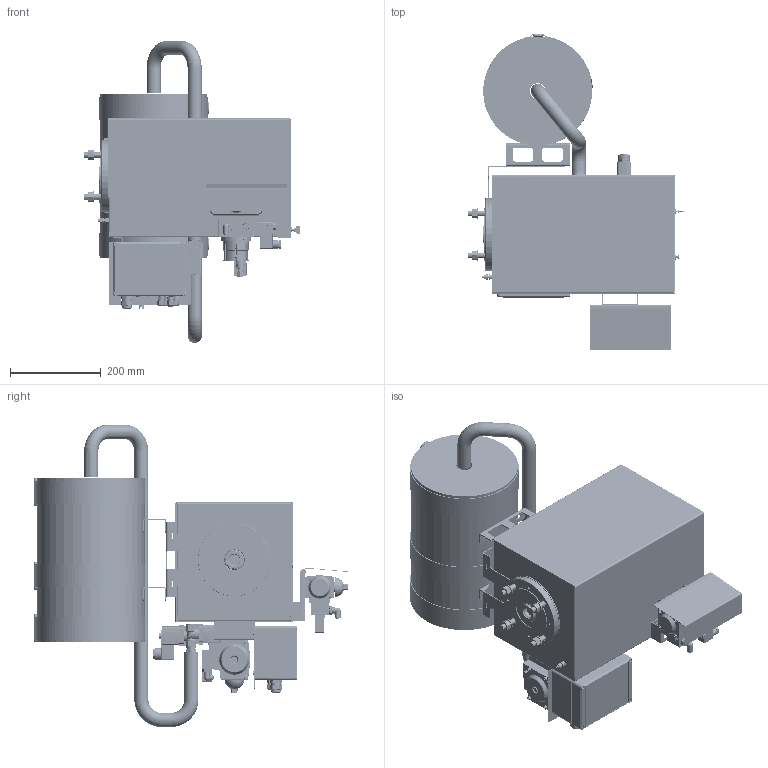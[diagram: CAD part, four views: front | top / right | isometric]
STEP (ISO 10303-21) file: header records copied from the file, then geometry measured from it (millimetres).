
FILE_DESCRIPTION(/* description */ ('Unknown'),/* implementation_level */ '2;1');
FILE_NAME(/* name */ 'ZUS003_JES-360.Z1F2X1V6K4J3U5R4M1A2-CK#00_v1',/* time_stamp */ '2021-06-23T10:56:23+02:00',/* author */ ('Unknown'),/* organization */ ('Unknown'),/* preprocessor_version */ 'ST-DEVELOPER v16.7',/* originating_system */ 'Solid Edge',/* authorisation */ 'Unknown');
FILE_SCHEMA (('AUTOMOTIVE_DESIGN {1 0 10303 214 3 1 1}'));
Products named in the file (111): ZUS003_JES-360; A35.00980_Montageschelle_d35-d50#00_oa_0; JES_FFM242_Montageschelle_d35-d50#00_oa_1; jes_246_ms-fixierring#00; jes_245_ms-halterring#00; Y1001101_Masterwatt_SLG004_Spannband-D53_oa_2; jes_349_befestigungsbügel_f_pag-e43-s6_kugelhahn_abgang#01; PAG-43; pag-43_2; PAG-43_1; PAG-43_0; K3522008_DKLok_039_DMC12M-6N-S; JES360_FFM009_Temp-Regler-K3590230_m_SPS_K3506707#00_oa_3; K3590230_Rinck-FFM007_Temperaturregler_i_Kunstoffgehäuse#02_oa_4; K3517002_Rinck-FFM006_Euromass-II_160x120x92_FT_oa_5; K1007501_Kabelbinder_Typ_100x2,5_PA66natur_ngp; K3517001_Rinck-FFM010_Euromass-II_160x120x92_FT_Original_oa_6; Rinck-58_238&246 UT_1003256_3DSYM_Original_oa_7; Rinck-57_238 OT-F_1003255_3DSYM_Original; Rinck_FFM005_Kableverschraubung_M20x1,5_oa_8; Rinck-49_Kableverschraubung_M20x1,5_Kontermutter; Rinck-50_Kableverschraubung_M20x1,5_Körper; Rinck-51_Kableverschraubung_M20x1,5_Dichtung; Rinck-52_Kableverschraubung_M20x1,5_Überwurf; K1007520A_KVS_M12x1,5_PA6_7035_d2,5-6,5_-30蚓-+100蚓_GL12_oa_9; K1007520A_Kableverschraubung_M12x1,5_Körper_PA6; K1007520A_Kableverschraubung_M12x1,5_Dichtung_TPEorCR; K1007520A_Kableverschraubung_M12x1,5_Überwurfmuttter_PA6; K1007520A_KVS_M12x1,5_PA6_7035_d2,5-6,5_-30蚓-+100蚓_GL12_oa_10; K1007520A_KVS_M12x1,5_PA6_7035_d2,5-6,5_-30蚓-+100蚓_GL12_oa_11; K1007520A_KVS_M12x1,5_PA6_7035_d2,5-6,5_-30蚓-+100蚓_GL12_oa_12; K3546411_Blindstopfen_M20x1,5_RAL7035_88705144; K1041006_AGS_SLG009_PAG-GTW-E63-S10_FK-rechtsdrehend_ZU; AGS_024_Grundkörper_PAG-GTW_E63_S10; K1046112_Nord-Lock_NL6spss_NIRO; K8822419_Buerk_SLG013_6213_294960_2-2-Magnetv_MS_38_EPDM_230VAC; Buerk_031_6213-10NPT3_8MS-Gehaeuse; Buerk_032_6213-Abdeckung_f_2-2-Wege-Magnetv; Buerk_024_6213-5NA38-Spule; Buerk_034_2508-008376-appliance plug socket according to DIN 43650, f
orm A 0 ...
Assembly tree (171 placements, depth 4):
  ZUS003_JES-360
    A35.00980_Montageschelle_d35-d50#00_oa_0
      JES_FFM242_Montageschelle_d35-d50#00_oa_1
        jes_246_ms-fixierring#00
        jes_245_ms-halterring#00
        Y1001101_Masterwatt_SLG004_Spannband-D53_oa_2
    jes_349_befestigungsbügel_f_pag-e43-s6_kugelhahn_abgang#01
    PAG-43
      pag-43_2
      PAG-43_1
      PAG-43_0
      PAG-43
    K3522008_DKLok_039_DMC12M-6N-S
    JES360_FFM009_Temp-Regler-K3590230_m_SPS_K3506707#00_oa_3
      K3590230_Rinck-FFM007_Temperaturregler_i_Kunstoffgehäuse#02_oa_4
        K3517002_Rinck-FFM006_Euromass-II_160x120x92_FT_oa_5
      K1007501_Kabelbinder_Typ_100x2,5_PA66natur_ngp
      K3517001_Rinck-FFM010_Euromass-II_160x120x92_FT_Original_oa_6
        Rinck-58_238&246 UT_1003256_3DSYM_Original_oa_7
        Rinck-57_238 OT-F_1003255_3DSYM_Original
      Rinck_FFM005_Kableverschraubung_M20x1,5_oa_8
        Rinck-49_Kableverschraubung_M20x1,5_Kontermutter
        Rinck-50_Kableverschraubung_M20x1,5_Körper
        Rinck-51_Kableverschraubung_M20x1,5_Dichtung
        Rinck-52_Kableverschraubung_M20x1,5_Überwurf
      K1007520A_KVS_M12x1,5_PA6_7035_d2,5-6,5_-30蚓-+100蚓_GL12_oa_9
        K1007520A_Kableverschraubung_M12x1,5_Körper_PA6
        K1007520A_Kableverschraubung_M12x1,5_Dichtung_TPEorCR
        K1007520A_Kableverschraubung_M12x1,5_Überwurfmuttter_PA6
      K1007520A_KVS_M12x1,5_PA6_7035_d2,5-6,5_-30蚓-+100蚓_GL12_oa_10
        K1007520A_Kableverschraubung_M12x1,5_Körper_PA6
        K1007520A_Kableverschraubung_M12x1,5_Dichtung_TPEorCR
        K1007520A_Kableverschraubung_M12x1,5_Überwurfmuttter_PA6
      K1007520A_KVS_M12x1,5_PA6_7035_d2,5-6,5_-30蚓-+100蚓_GL12_oa_11
        K1007520A_Kableverschraubung_M12x1,5_Körper_PA6
        K1007520A_Kableverschraubung_M12x1,5_Dichtung_TPEorCR
        K1007520A_Kableverschraubung_M12x1,5_Überwurfmuttter_PA6
      K1007520A_KVS_M12x1,5_PA6_7035_d2,5-6,5_-30蚓-+100蚓_GL12_oa_12
        K1007520A_Kableverschraubung_M12x1,5_Körper_PA6
        K1007520A_Kableverschraubung_M12x1,5_Dichtung_TPEorCR
        K1007520A_Kableverschraubung_M12x1,5_Überwurfmuttter_PA6
      K3546411_Blindstopfen_M20x1,5_RAL7035_88705144
    K1041006_AGS_SLG009_PAG-GTW-E63-S10_FK-rechtsdrehend_ZU
      AGS_024_Grundkörper_PAG-GTW_E63_S10
    K1046112_Nord-Lock_NL6spss_NIRO  x4
    K8822419_Buerk_SLG013_6213_294960_2-2-Magnetv_MS_38_EPDM_230VAC  x2
      Buerk_031_6213-10NPT3_8MS-Gehaeuse
      Buerk_032_6213-Abdeckung_f_2-2-Wege-Magnetv
      Buerk_024_6213-5NA38-Spule
      Buerk_034_2508-008376-appliance plug socket according to DIN 43650, f
orm A 0
    JES_FFM086_Befestigungsschrauben_m_Flanschdichtung-C4400_DN65PN6#02_o
a_13
      K1046695_6kt_Schraube_DIN_933_M12x55_8.8_vz-bl  x4
      K1046698_Scheibe_DIN_125_A_13_St_vz-bl  x4
      Verpack_001_Plastiksackerl_125x198_m_Versschluss_ngp
      K1046906_6kt_Mutter_ISO_4032_M12_8_vz-bl  x4
      K3500950_Flachdichtung_38x27_s2_C-4400
      K1001652_flachdichtung_115x77x2_C-4400
    JES360_SLG001_XL_Drehantriebhalter-PAG52_m_E-Boxblech#03_oa_14
      JES_420_DENOX_Befestigungsblech_f_Stellantrieb#04
      JES360_013_XL-Blechteil-1#02
Bounding box: 475.39 x 696.1 x 664.04 mm (x, y, z)
Volume: 14266712.2 mm3; surface area: 3219239.5 mm2
Topology: 151 solids, 152 shells, 6964 faces, 17312 edges, 11280 vertices
Faces by surface type: plane 4161, cylinder 1475, cone 613, bspline 410, torus 282, sphere 23
Full cylindrical faces by diameter (mm): 1.5 x17, 2.013 x2, 2.4 x12, 2.459 x2, 3 x4, 3.2 x8, 3.242 x7, 3.3 x2, 3.571 x4, 4 x10, 4.134 x24, 4.2 x4, 4.5 x6, 4.6 x4, 4.8 x1, 4.917 x26, 5.3 x2, 5.35 x4, 5.38 x2, 5.4 x14, 5.5 x10, 6 x12, 6.3 x2, 6.4 x8, 6.5 x19, 6.6 x4, 6.647 x4, 6.7 x4, 7 x20, 7.04 x4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
Entity records: 174616 total; most frequent: CARTESIAN_POINT 37912, DIRECTION 22382, ORIENTED_EDGE 22328, EDGE_CURVE 11164, VERTEX_POINT 7685, AXIS2_PLACEMENT_3D 7604, LINE 7174, VECTOR 7174
